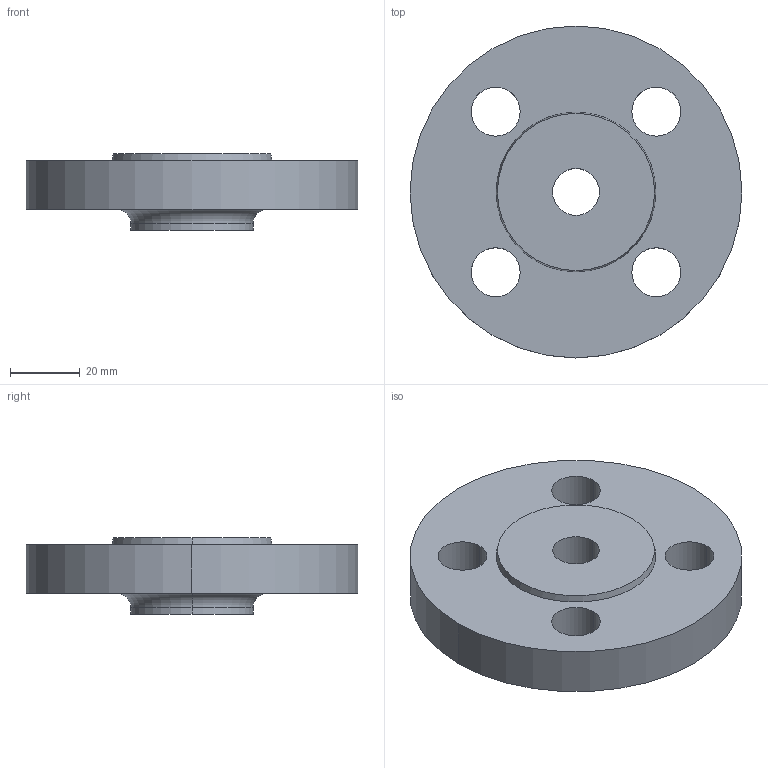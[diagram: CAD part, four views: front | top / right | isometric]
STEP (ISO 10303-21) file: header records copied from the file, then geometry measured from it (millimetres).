
FILE_DESCRIPTION (( 'STEP AP214' ), '1' );
FILE_NAME ('PN40 DN15 Type 13 - Type B Face.STEP', '2018-12-29T14:36:09', ( '' ), ( '' ), 'SwSTEP 2.0', 'SolidWorks 2019', '' );
FILE_SCHEMA (( 'AUTOMOTIVE_DESIGN' ));
Length unit declared in the file: millimetre
Products named in the file (1): PN40 DN15 Type 13 - Type B Face
Bounding box: 95 x 95 x 22 mm (x, y, z)
Volume: 96923.5 mm3; surface area: 20946.9 mm2
Topology: 1 solids, 1 shells, 22 faces, 52 edges, 34 vertices
Faces by surface type: cylinder 14, plane 4, torus 2, cone 2
Entity records: 710 total; most frequent: DIRECTION 134, CARTESIAN_POINT 109, ORIENTED_EDGE 104, AXIS2_PLACEMENT_3D 59, EDGE_CURVE 52, CIRCLE 36, EDGE_LOOP 34, VERTEX_POINT 34
